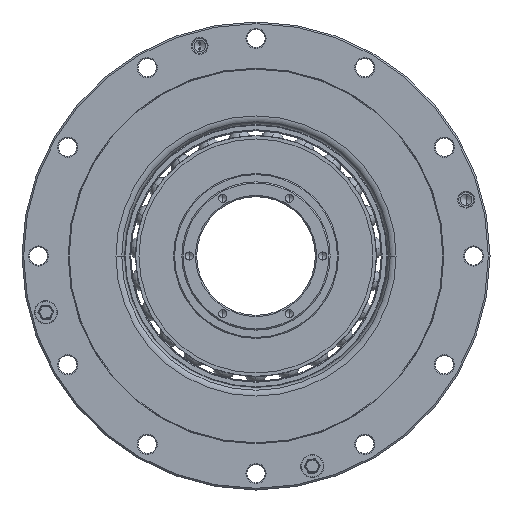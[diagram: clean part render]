
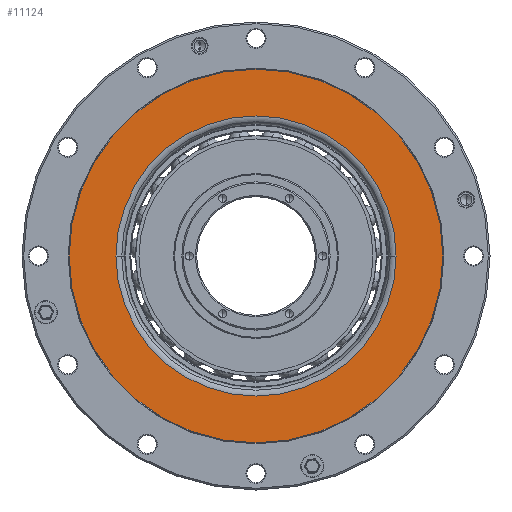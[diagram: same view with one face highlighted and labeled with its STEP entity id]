
A CAD part, front view. The second image highlights one B-rep face of the part: STEP entity #11124.
In plain terms, the highlighted planar face has unit normal (0, -1, 0).
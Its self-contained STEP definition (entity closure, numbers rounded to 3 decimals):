
#8385=CARTESIAN_POINT('',(0.,-39.,0.));
#8386=DIRECTION('',(0.,1.,0.));
#8387=DIRECTION('',(1.,0.,0.));
#8388=AXIS2_PLACEMENT_3D('',#8385,#8386,#8387);
#8393=CARTESIAN_POINT('',(0.,-39.,0.));
#8394=DIRECTION('',(0.,1.,0.));
#8395=DIRECTION('',(-1.,0.,0.));
#8396=AXIS2_PLACEMENT_3D('',#8393,#8394,#8395);
#8401=CARTESIAN_POINT('',(0.,-39.,0.));
#8402=DIRECTION('',(0.,-1.,0.));
#8403=DIRECTION('',(1.,0.,0.));
#8404=AXIS2_PLACEMENT_3D('',#8401,#8402,#8403);
#8409=CARTESIAN_POINT('',(0.,-39.,0.));
#8410=DIRECTION('',(0.,-1.,0.));
#8411=DIRECTION('',(-1.,0.,0.));
#8412=AXIS2_PLACEMENT_3D('',#8409,#8410,#8411);
#9035=CARTESIAN_POINT('',(56.7,-39.,0.));
#9036=CARTESIAN_POINT('',(-56.7,-39.,0.));
#9037=VERTEX_POINT('',#9035);
#9038=VERTEX_POINT('',#9036);
#9039=CARTESIAN_POINT('',(42.5,-39.,0.));
#9040=CARTESIAN_POINT('',(-42.5,-39.,0.));
#9041=VERTEX_POINT('',#9039);
#9042=VERTEX_POINT('',#9040);
#11108=CARTESIAN_POINT('',(-56.7,-39.,0.));
#11109=DIRECTION('',(0.,-1.,0.));
#11110=DIRECTION('',(1.,0.,0.));
#11111=AXIS2_PLACEMENT_3D('',#11108,#11109,#11110);
#11112=PLANE('',#11111);
#11113=ORIENTED_EDGE('',*,*,#11098,.T.);
#11115=ORIENTED_EDGE('',*,*,#11114,.T.);
#11116=EDGE_LOOP('',(#11113,#11115));
#11117=FACE_OUTER_BOUND('',#11116,.F.);
#11119=ORIENTED_EDGE('',*,*,#11118,.T.);
#11121=ORIENTED_EDGE('',*,*,#11120,.T.);
#11122=EDGE_LOOP('',(#11119,#11121));
#11123=FACE_BOUND('',#11122,.F.);
#8389=CIRCLE('',#8388,56.7);
#8397=CIRCLE('',#8396,56.7);
#8405=CIRCLE('',#8404,42.5);
#8413=CIRCLE('',#8412,42.5);
#11098=EDGE_CURVE('',#9037,#9038,#8389,.T.);
#11114=EDGE_CURVE('',#9038,#9037,#8397,.T.);
#11118=EDGE_CURVE('',#9041,#9042,#8405,.T.);
#11120=EDGE_CURVE('',#9042,#9041,#8413,.T.);
#11124=ADVANCED_FACE('',(#11117,#11123),#11112,.T.);
